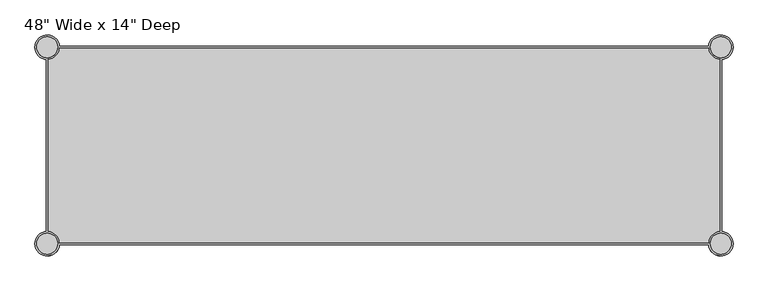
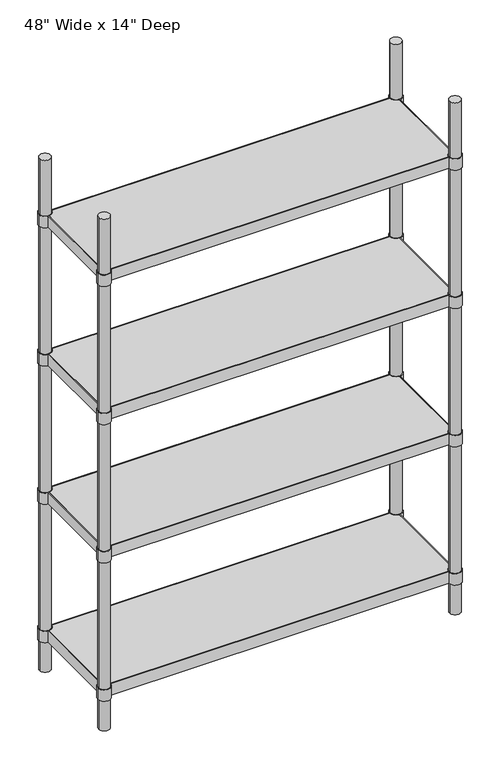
"""IFC4 building model written with IfcOpenShell, lengths in millimetres: proxy geometry."""

from ifc_helpers import new_model, si_unit, point, frame, frame_2d, origin, origin_with_axes, place, context, project, spatial, polyline, circle_curve, trimmed, segment, composite_curve, outline, extrude, source, transform, mapped, element, save


def proxy_9966d709(model_context):
    return source(origin(), model_context, "Body", "SweptSolid", [
        extrude(outline(composite_curve([segment(polyline([(-587.4317689, 176.2125), (587.4317689, 176.2125)]), True, "CONTINUOUS"), segment(trimmed(circle_curve(frame_2d((609.6, 177.8)), 22.225), [point((587.4317689, 176.2125))], [point((608.0125, 155.6317689))], True, "CARTESIAN"), True, "CONTINUOUS"), segment(polyline([(608.0125, 155.6317689), (608.0125, -155.6317689)]), True, "CONTINUOUS"), segment(trimmed(circle_curve(frame_2d((609.6, -177.8)), 22.225), [point((608.0125, -155.6317689))], [point((587.4317689, -176.2125))], True, "CARTESIAN"), True, "CONTINUOUS"), segment(polyline([(587.4317689, -176.2125), (-587.4317689, -176.2125)]), True, "CONTINUOUS"), segment(trimmed(circle_curve(frame_2d((-609.6, -177.8)), 22.225), [point((-587.4317689, -176.2125))], [point((-608.0125, -155.6317689))], True, "CARTESIAN"), True, "CONTINUOUS"), segment(polyline([(-608.0125, -155.6317689), (-608.0125, 155.6317689)]), True, "CONTINUOUS"), segment(trimmed(circle_curve(frame_2d((-609.6, 177.8)), 22.225), [point((-608.0125, 155.6317689))], [point((-587.4317689, 176.2125))], True, "CARTESIAN"), True, "CONTINUOUS")], self_intersect=False)), frame((0.0, 0.0, 1663.7), z_axis=(0.0, 0.0, 1.0), x_axis=(1.0, 0.0, 0.0)), (0.0, 0.0, 1.0), 12.7),
        extrude(outline(composite_curve([segment(polyline([(-587.4317689, 176.2125), (587.4317689, 176.2125)]), True, "CONTINUOUS"), segment(trimmed(circle_curve(frame_2d((609.6, 177.8)), 22.225), [point((587.4317689, 176.2125))], [point((608.0125, 155.6317689))], True, "CARTESIAN"), True, "CONTINUOUS"), segment(polyline([(608.0125, 155.6317689), (608.0125, -155.6317689)]), True, "CONTINUOUS"), segment(trimmed(circle_curve(frame_2d((609.6, -177.8)), 22.225), [point((608.0125, -155.6317689))], [point((587.4317689, -176.2125))], True, "CARTESIAN"), True, "CONTINUOUS"), segment(polyline([(587.4317689, -176.2125), (-587.4317689, -176.2125)]), True, "CONTINUOUS"), segment(trimmed(circle_curve(frame_2d((-609.6, -177.8)), 22.225), [point((-587.4317689, -176.2125))], [point((-608.0125, -155.6317689))], True, "CARTESIAN"), True, "CONTINUOUS"), segment(polyline([(-608.0125, -155.6317689), (-608.0125, 155.6317689)]), True, "CONTINUOUS"), segment(trimmed(circle_curve(frame_2d((-609.6, 177.8)), 22.225), [point((-608.0125, 155.6317689))], [point((-587.4317689, 176.2125))], True, "CARTESIAN"), True, "CONTINUOUS")], self_intersect=False)), frame((0.0, 0.0, 1155.7), z_axis=(0.0, 0.0, 1.0), x_axis=(1.0, 0.0, 0.0)), (0.0, 0.0, 1.0), 12.7),
        extrude(outline(composite_curve([segment(polyline([(-587.4317689, 176.2125), (587.4317689, 176.2125)]), True, "CONTINUOUS"), segment(trimmed(circle_curve(frame_2d((609.6, 177.8)), 22.225), [point((587.4317689, 176.2125))], [point((608.0125, 155.6317689))], True, "CARTESIAN"), True, "CONTINUOUS"), segment(polyline([(608.0125, 155.6317689), (608.0125, -155.6317689)]), True, "CONTINUOUS"), segment(trimmed(circle_curve(frame_2d((609.6, -177.8)), 22.225), [point((608.0125, -155.6317689))], [point((587.4317689, -176.2125))], True, "CARTESIAN"), True, "CONTINUOUS"), segment(polyline([(587.4317689, -176.2125), (-587.4317689, -176.2125)]), True, "CONTINUOUS"), segment(trimmed(circle_curve(frame_2d((-609.6, -177.8)), 22.225), [point((-587.4317689, -176.2125))], [point((-608.0125, -155.6317689))], True, "CARTESIAN"), True, "CONTINUOUS"), segment(polyline([(-608.0125, -155.6317689), (-608.0125, 155.6317689)]), True, "CONTINUOUS"), segment(trimmed(circle_curve(frame_2d((-609.6, 177.8)), 22.225), [point((-608.0125, 155.6317689))], [point((-587.4317689, 176.2125))], True, "CARTESIAN"), True, "CONTINUOUS")], self_intersect=False)), frame((0.0, 0.0, 647.7), z_axis=(0.0, 0.0, 1.0), x_axis=(1.0, 0.0, 0.0)), (0.0, 0.0, 1.0), 12.7),
        extrude(outline(composite_curve([segment(polyline([(-587.4317689, 176.2125), (587.4317689, 176.2125)]), True, "CONTINUOUS"), segment(trimmed(circle_curve(frame_2d((609.6, 177.8)), 22.225), [point((587.4317689, 176.2125))], [point((608.0125, 155.6317689))], True, "CARTESIAN"), True, "CONTINUOUS"), segment(polyline([(608.0125, 155.6317689), (608.0125, -155.6317689)]), True, "CONTINUOUS"), segment(trimmed(circle_curve(frame_2d((609.6, -177.8)), 22.225), [point((608.0125, -155.6317689))], [point((587.4317689, -176.2125))], True, "CARTESIAN"), True, "CONTINUOUS"), segment(polyline([(587.4317689, -176.2125), (-587.4317689, -176.2125)]), True, "CONTINUOUS"), segment(trimmed(circle_curve(frame_2d((-609.6, -177.8)), 22.225), [point((-587.4317689, -176.2125))], [point((-608.0125, -155.6317689))], True, "CARTESIAN"), True, "CONTINUOUS"), segment(polyline([(-608.0125, -155.6317689), (-608.0125, 155.6317689)]), True, "CONTINUOUS"), segment(trimmed(circle_curve(frame_2d((-609.6, 177.8)), 22.225), [point((-608.0125, 155.6317689))], [point((-587.4317689, 176.2125))], True, "CARTESIAN"), True, "CONTINUOUS")], self_intersect=False)), frame((0.0, 0.0, 139.7), z_axis=(0.0, 0.0, 1.0), x_axis=(1.0, 0.0, 0.0)), (0.0, 0.0, 1.0), 12.7),
        extrude(outline(composite_curve([segment(trimmed(circle_curve(frame_2d((-609.6, 177.8)), 22.225), [point((-611.1875, 155.6317689))], [point((-631.825, 177.8))], False, "CARTESIAN"), True, "CONTINUOUS"), segment(trimmed(circle_curve(frame_2d((-609.6, 177.8)), 22.225), [point((-631.825, 177.8))], [point((-587.4317689, 179.3875))], False, "CARTESIAN"), True, "CONTINUOUS"), segment(polyline([(-587.4317689, 179.3875), (587.4317689, 179.3875)]), True, "CONTINUOUS"), segment(trimmed(circle_curve(frame_2d((609.6, 177.8)), 22.225), [point((587.4317689, 179.3875))], [point((631.825, 177.8))], False, "CARTESIAN"), True, "CONTINUOUS"), segment(trimmed(circle_curve(frame_2d((609.6, 177.8)), 22.225), [point((631.825, 177.8))], [point((611.1875, 155.6317689))], False, "CARTESIAN"), True, "CONTINUOUS"), segment(polyline([(611.1875, 155.6317689), (611.1875, -155.6317689)]), True, "CONTINUOUS"), segment(trimmed(circle_curve(frame_2d((609.6, -177.8)), 22.225), [point((611.1875, -155.6317689))], [point((631.825, -177.8))], False, "CARTESIAN"), True, "CONTINUOUS"), segment(trimmed(circle_curve(frame_2d((609.6, -177.8)), 22.225), [point((631.825, -177.8))], [point((587.4317689, -179.3875))], False, "CARTESIAN"), True, "CONTINUOUS"), segment(polyline([(587.4317689, -179.3875), (-587.4317689, -179.3875)]), True, "CONTINUOUS"), segment(trimmed(circle_curve(frame_2d((-609.6, -177.8)), 22.225), [point((-587.4317689, -179.3875))], [point((-631.825, -177.8))], False, "CARTESIAN"), True, "CONTINUOUS"), segment(trimmed(circle_curve(frame_2d((-609.6, -177.8)), 22.225), [point((-631.825, -177.8))], [point((-611.1875, -155.6317689))], False, "CARTESIAN"), True, "CONTINUOUS"), segment(polyline([(-611.1875, -155.6317689), (-611.1875, 155.6317689)]), True, "CONTINUOUS")], self_intersect=False), holes=[composite_curve([segment(trimmed(circle_curve(frame_2d((-609.6, 177.8)), 19.05), [point((-590.55, 177.8))], [point((-628.65, 177.8))], True, "CARTESIAN"), True, "CONTINUOUS"), segment(trimmed(circle_curve(frame_2d((-609.6, 177.8)), 19.05), [point((-628.65, 177.8))], [point((-590.55, 177.8))], True, "CARTESIAN"), True, "CONTINUOUS")], self_intersect=False), composite_curve([segment(polyline([(587.4317689, 176.2125), (-587.4317689, 176.2125)]), True, "CONTINUOUS"), segment(trimmed(circle_curve(frame_2d((-609.6, 177.8)), 22.225), [point((-587.4317689, 176.2125))], [point((-608.0125, 155.6317689))], False, "CARTESIAN"), True, "CONTINUOUS"), segment(polyline([(-608.0125, 155.6317689), (-608.0125, -155.6317689)]), True, "CONTINUOUS"), segment(trimmed(circle_curve(frame_2d((-609.6, -177.8)), 22.225), [point((-608.0125, -155.6317689))], [point((-587.4317689, -176.2125))], False, "CARTESIAN"), True, "CONTINUOUS"), segment(polyline([(-587.4317689, -176.2125), (587.4317689, -176.2125)]), True, "CONTINUOUS"), segment(trimmed(circle_curve(frame_2d((609.6, -177.8)), 22.225), [point((587.4317689, -176.2125))], [point((608.0125, -155.6317689))], False, "CARTESIAN"), True, "CONTINUOUS"), segment(polyline([(608.0125, -155.6317689), (608.0125, 155.6317689)]), True, "CONTINUOUS"), segment(trimmed(circle_curve(frame_2d((609.6, 177.8)), 22.225), [point((608.0125, 155.6317689))], [point((587.4317689, 176.2125))], False, "CARTESIAN"), True, "CONTINUOUS")], self_intersect=False), composite_curve([segment(trimmed(circle_curve(frame_2d((609.6, 177.8)), 19.05), [point((628.65, 177.8))], [point((590.55, 177.8))], True, "CARTESIAN"), True, "CONTINUOUS"), segment(trimmed(circle_curve(frame_2d((609.6, 177.8)), 19.05), [point((590.55, 177.8))], [point((628.65, 177.8))], True, "CARTESIAN"), True, "CONTINUOUS")], self_intersect=False), composite_curve([segment(trimmed(circle_curve(frame_2d((-609.6, -177.8)), 19.05), [point((-590.55, -177.8))], [point((-628.65, -177.8))], True, "CARTESIAN"), True, "CONTINUOUS"), segment(trimmed(circle_curve(frame_2d((-609.6, -177.8)), 19.05), [point((-628.65, -177.8))], [point((-590.55, -177.8))], True, "CARTESIAN"), True, "CONTINUOUS")], self_intersect=False), composite_curve([segment(trimmed(circle_curve(frame_2d((609.6, -177.8)), 19.05), [point((628.65, -177.8))], [point((590.55, -177.8))], True, "CARTESIAN"), True, "CONTINUOUS"), segment(trimmed(circle_curve(frame_2d((609.6, -177.8)), 19.05), [point((590.55, -177.8))], [point((628.65, -177.8))], True, "CARTESIAN"), True, "CONTINUOUS")], self_intersect=False)]), frame((0.0, 0.0, 1635.125), z_axis=(0.0, 0.0, 1.0), x_axis=(1.0, 0.0, 0.0)), (0.0, 0.0, 1.0), 41.275),
        extrude(outline(composite_curve([segment(trimmed(circle_curve(frame_2d((-609.6, 177.8)), 22.225), [point((-611.1875, 155.6317689))], [point((-631.825, 177.8))], False, "CARTESIAN"), True, "CONTINUOUS"), segment(trimmed(circle_curve(frame_2d((-609.6, 177.8)), 22.225), [point((-631.825, 177.8))], [point((-587.4317689, 179.3875))], False, "CARTESIAN"), True, "CONTINUOUS"), segment(polyline([(-587.4317689, 179.3875), (587.4317689, 179.3875)]), True, "CONTINUOUS"), segment(trimmed(circle_curve(frame_2d((609.6, 177.8)), 22.225), [point((587.4317689, 179.3875))], [point((631.825, 177.8))], False, "CARTESIAN"), True, "CONTINUOUS"), segment(trimmed(circle_curve(frame_2d((609.6, 177.8)), 22.225), [point((631.825, 177.8))], [point((611.1875, 155.6317689))], False, "CARTESIAN"), True, "CONTINUOUS"), segment(polyline([(611.1875, 155.6317689), (611.1875, -155.6317689)]), True, "CONTINUOUS"), segment(trimmed(circle_curve(frame_2d((609.6, -177.8)), 22.225), [point((611.1875, -155.6317689))], [point((631.825, -177.8))], False, "CARTESIAN"), True, "CONTINUOUS"), segment(trimmed(circle_curve(frame_2d((609.6, -177.8)), 22.225), [point((631.825, -177.8))], [point((587.4317689, -179.3875))], False, "CARTESIAN"), True, "CONTINUOUS"), segment(polyline([(587.4317689, -179.3875), (-587.4317689, -179.3875)]), True, "CONTINUOUS"), segment(trimmed(circle_curve(frame_2d((-609.6, -177.8)), 22.225), [point((-587.4317689, -179.3875))], [point((-631.825, -177.8))], False, "CARTESIAN"), True, "CONTINUOUS"), segment(trimmed(circle_curve(frame_2d((-609.6, -177.8)), 22.225), [point((-631.825, -177.8))], [point((-611.1875, -155.6317689))], False, "CARTESIAN"), True, "CONTINUOUS"), segment(polyline([(-611.1875, -155.6317689), (-611.1875, 155.6317689)]), True, "CONTINUOUS")], self_intersect=False), holes=[composite_curve([segment(trimmed(circle_curve(frame_2d((-609.6, 177.8)), 19.05), [point((-590.55, 177.8))], [point((-628.65, 177.8))], True, "CARTESIAN"), True, "CONTINUOUS"), segment(trimmed(circle_curve(frame_2d((-609.6, 177.8)), 19.05), [point((-628.65, 177.8))], [point((-590.55, 177.8))], True, "CARTESIAN"), True, "CONTINUOUS")], self_intersect=False), composite_curve([segment(polyline([(587.4317689, 176.2125), (-587.4317689, 176.2125)]), True, "CONTINUOUS"), segment(trimmed(circle_curve(frame_2d((-609.6, 177.8)), 22.225), [point((-587.4317689, 176.2125))], [point((-608.0125, 155.6317689))], False, "CARTESIAN"), True, "CONTINUOUS"), segment(polyline([(-608.0125, 155.6317689), (-608.0125, -155.6317689)]), True, "CONTINUOUS"), segment(trimmed(circle_curve(frame_2d((-609.6, -177.8)), 22.225), [point((-608.0125, -155.6317689))], [point((-587.4317689, -176.2125))], False, "CARTESIAN"), True, "CONTINUOUS"), segment(polyline([(-587.4317689, -176.2125), (587.4317689, -176.2125)]), True, "CONTINUOUS"), segment(trimmed(circle_curve(frame_2d((609.6, -177.8)), 22.225), [point((587.4317689, -176.2125))], [point((608.0125, -155.6317689))], False, "CARTESIAN"), True, "CONTINUOUS"), segment(polyline([(608.0125, -155.6317689), (608.0125, 155.6317689)]), True, "CONTINUOUS"), segment(trimmed(circle_curve(frame_2d((609.6, 177.8)), 22.225), [point((608.0125, 155.6317689))], [point((587.4317689, 176.2125))], False, "CARTESIAN"), True, "CONTINUOUS")], self_intersect=False), composite_curve([segment(trimmed(circle_curve(frame_2d((609.6, 177.8)), 19.05), [point((628.65, 177.8))], [point((590.55, 177.8))], True, "CARTESIAN"), True, "CONTINUOUS"), segment(trimmed(circle_curve(frame_2d((609.6, 177.8)), 19.05), [point((590.55, 177.8))], [point((628.65, 177.8))], True, "CARTESIAN"), True, "CONTINUOUS")], self_intersect=False), composite_curve([segment(trimmed(circle_curve(frame_2d((-609.6, -177.8)), 19.05), [point((-590.55, -177.8))], [point((-628.65, -177.8))], True, "CARTESIAN"), True, "CONTINUOUS"), segment(trimmed(circle_curve(frame_2d((-609.6, -177.8)), 19.05), [point((-628.65, -177.8))], [point((-590.55, -177.8))], True, "CARTESIAN"), True, "CONTINUOUS")], self_intersect=False), composite_curve([segment(trimmed(circle_curve(frame_2d((609.6, -177.8)), 19.05), [point((628.65, -177.8))], [point((590.55, -177.8))], True, "CARTESIAN"), True, "CONTINUOUS"), segment(trimmed(circle_curve(frame_2d((609.6, -177.8)), 19.05), [point((590.55, -177.8))], [point((628.65, -177.8))], True, "CARTESIAN"), True, "CONTINUOUS")], self_intersect=False)]), frame((0.0, 0.0, 1127.125), z_axis=(0.0, 0.0, 1.0), x_axis=(1.0, 0.0, 0.0)), (0.0, 0.0, 1.0), 41.275),
        extrude(outline(composite_curve([segment(trimmed(circle_curve(frame_2d((-609.6, 177.8)), 22.225), [point((-611.1875, 155.6317689))], [point((-631.825, 177.8))], False, "CARTESIAN"), True, "CONTINUOUS"), segment(trimmed(circle_curve(frame_2d((-609.6, 177.8)), 22.225), [point((-631.825, 177.8))], [point((-587.4317689, 179.3875))], False, "CARTESIAN"), True, "CONTINUOUS"), segment(polyline([(-587.4317689, 179.3875), (587.4317689, 179.3875)]), True, "CONTINUOUS"), segment(trimmed(circle_curve(frame_2d((609.6, 177.8)), 22.225), [point((587.4317689, 179.3875))], [point((631.825, 177.8))], False, "CARTESIAN"), True, "CONTINUOUS"), segment(trimmed(circle_curve(frame_2d((609.6, 177.8)), 22.225), [point((631.825, 177.8))], [point((611.1875, 155.6317689))], False, "CARTESIAN"), True, "CONTINUOUS"), segment(polyline([(611.1875, 155.6317689), (611.1875, -155.6317689)]), True, "CONTINUOUS"), segment(trimmed(circle_curve(frame_2d((609.6, -177.8)), 22.225), [point((611.1875, -155.6317689))], [point((631.825, -177.8))], False, "CARTESIAN"), True, "CONTINUOUS"), segment(trimmed(circle_curve(frame_2d((609.6, -177.8)), 22.225), [point((631.825, -177.8))], [point((587.4317689, -179.3875))], False, "CARTESIAN"), True, "CONTINUOUS"), segment(polyline([(587.4317689, -179.3875), (-587.4317689, -179.3875)]), True, "CONTINUOUS"), segment(trimmed(circle_curve(frame_2d((-609.6, -177.8)), 22.225), [point((-587.4317689, -179.3875))], [point((-631.825, -177.8))], False, "CARTESIAN"), True, "CONTINUOUS"), segment(trimmed(circle_curve(frame_2d((-609.6, -177.8)), 22.225), [point((-631.825, -177.8))], [point((-611.1875, -155.6317689))], False, "CARTESIAN"), True, "CONTINUOUS"), segment(polyline([(-611.1875, -155.6317689), (-611.1875, 155.6317689)]), True, "CONTINUOUS")], self_intersect=False), holes=[composite_curve([segment(trimmed(circle_curve(frame_2d((-609.6, 177.8)), 19.05), [point((-590.55, 177.8))], [point((-628.65, 177.8))], True, "CARTESIAN"), True, "CONTINUOUS"), segment(trimmed(circle_curve(frame_2d((-609.6, 177.8)), 19.05), [point((-628.65, 177.8))], [point((-590.55, 177.8))], True, "CARTESIAN"), True, "CONTINUOUS")], self_intersect=False), composite_curve([segment(polyline([(587.4317689, 176.2125), (-587.4317689, 176.2125)]), True, "CONTINUOUS"), segment(trimmed(circle_curve(frame_2d((-609.6, 177.8)), 22.225), [point((-587.4317689, 176.2125))], [point((-608.0125, 155.6317689))], False, "CARTESIAN"), True, "CONTINUOUS"), segment(polyline([(-608.0125, 155.6317689), (-608.0125, -155.6317689)]), True, "CONTINUOUS"), segment(trimmed(circle_curve(frame_2d((-609.6, -177.8)), 22.225), [point((-608.0125, -155.6317689))], [point((-587.4317689, -176.2125))], False, "CARTESIAN"), True, "CONTINUOUS"), segment(polyline([(-587.4317689, -176.2125), (587.4317689, -176.2125)]), True, "CONTINUOUS"), segment(trimmed(circle_curve(frame_2d((609.6, -177.8)), 22.225), [point((587.4317689, -176.2125))], [point((608.0125, -155.6317689))], False, "CARTESIAN"), True, "CONTINUOUS"), segment(polyline([(608.0125, -155.6317689), (608.0125, 155.6317689)]), True, "CONTINUOUS"), segment(trimmed(circle_curve(frame_2d((609.6, 177.8)), 22.225), [point((608.0125, 155.6317689))], [point((587.4317689, 176.2125))], False, "CARTESIAN"), True, "CONTINUOUS")], self_intersect=False), composite_curve([segment(trimmed(circle_curve(frame_2d((609.6, 177.8)), 19.05), [point((628.65, 177.8))], [point((590.55, 177.8))], True, "CARTESIAN"), True, "CONTINUOUS"), segment(trimmed(circle_curve(frame_2d((609.6, 177.8)), 19.05), [point((590.55, 177.8))], [point((628.65, 177.8))], True, "CARTESIAN"), True, "CONTINUOUS")], self_intersect=False), composite_curve([segment(trimmed(circle_curve(frame_2d((-609.6, -177.8)), 19.05), [point((-590.55, -177.8))], [point((-628.65, -177.8))], True, "CARTESIAN"), True, "CONTINUOUS"), segment(trimmed(circle_curve(frame_2d((-609.6, -177.8)), 19.05), [point((-628.65, -177.8))], [point((-590.55, -177.8))], True, "CARTESIAN"), True, "CONTINUOUS")], self_intersect=False), composite_curve([segment(trimmed(circle_curve(frame_2d((609.6, -177.8)), 19.05), [point((628.65, -177.8))], [point((590.55, -177.8))], True, "CARTESIAN"), True, "CONTINUOUS"), segment(trimmed(circle_curve(frame_2d((609.6, -177.8)), 19.05), [point((590.55, -177.8))], [point((628.65, -177.8))], True, "CARTESIAN"), True, "CONTINUOUS")], self_intersect=False)]), frame((0.0, 0.0, 619.125), z_axis=(0.0, 0.0, 1.0), x_axis=(1.0, 0.0, 0.0)), (0.0, 0.0, 1.0), 41.275),
        extrude(outline(composite_curve([segment(trimmed(circle_curve(frame_2d((-609.6, 177.8)), 22.225), [point((-611.1875, 155.6317689))], [point((-631.825, 177.8))], False, "CARTESIAN"), True, "CONTINUOUS"), segment(trimmed(circle_curve(frame_2d((-609.6, 177.8)), 22.225), [point((-631.825, 177.8))], [point((-587.4317689, 179.3875))], False, "CARTESIAN"), True, "CONTINUOUS"), segment(polyline([(-587.4317689, 179.3875), (587.4317689, 179.3875)]), True, "CONTINUOUS"), segment(trimmed(circle_curve(frame_2d((609.6, 177.8)), 22.225), [point((587.4317689, 179.3875))], [point((631.825, 177.8))], False, "CARTESIAN"), True, "CONTINUOUS"), segment(trimmed(circle_curve(frame_2d((609.6, 177.8)), 22.225), [point((631.825, 177.8))], [point((611.1875, 155.6317689))], False, "CARTESIAN"), True, "CONTINUOUS"), segment(polyline([(611.1875, 155.6317689), (611.1875, -155.6317689)]), True, "CONTINUOUS"), segment(trimmed(circle_curve(frame_2d((609.6, -177.8)), 22.225), [point((611.1875, -155.6317689))], [point((631.825, -177.8))], False, "CARTESIAN"), True, "CONTINUOUS"), segment(trimmed(circle_curve(frame_2d((609.6, -177.8)), 22.225), [point((631.825, -177.8))], [point((587.4317689, -179.3875))], False, "CARTESIAN"), True, "CONTINUOUS"), segment(polyline([(587.4317689, -179.3875), (-587.4317689, -179.3875)]), True, "CONTINUOUS"), segment(trimmed(circle_curve(frame_2d((-609.6, -177.8)), 22.225), [point((-587.4317689, -179.3875))], [point((-631.825, -177.8))], False, "CARTESIAN"), True, "CONTINUOUS"), segment(trimmed(circle_curve(frame_2d((-609.6, -177.8)), 22.225), [point((-631.825, -177.8))], [point((-611.1875, -155.6317689))], False, "CARTESIAN"), True, "CONTINUOUS"), segment(polyline([(-611.1875, -155.6317689), (-611.1875, 155.6317689)]), True, "CONTINUOUS")], self_intersect=False), holes=[composite_curve([segment(trimmed(circle_curve(frame_2d((-609.6, 177.8)), 19.05), [point((-590.55, 177.8))], [point((-628.65, 177.8))], True, "CARTESIAN"), True, "CONTINUOUS"), segment(trimmed(circle_curve(frame_2d((-609.6, 177.8)), 19.05), [point((-628.65, 177.8))], [point((-590.55, 177.8))], True, "CARTESIAN"), True, "CONTINUOUS")], self_intersect=False), composite_curve([segment(polyline([(587.4317689, 176.2125), (-587.4317689, 176.2125)]), True, "CONTINUOUS"), segment(trimmed(circle_curve(frame_2d((-609.6, 177.8)), 22.225), [point((-587.4317689, 176.2125))], [point((-608.0125, 155.6317689))], False, "CARTESIAN"), True, "CONTINUOUS"), segment(polyline([(-608.0125, 155.6317689), (-608.0125, -155.6317689)]), True, "CONTINUOUS"), segment(trimmed(circle_curve(frame_2d((-609.6, -177.8)), 22.225), [point((-608.0125, -155.6317689))], [point((-587.4317689, -176.2125))], False, "CARTESIAN"), True, "CONTINUOUS"), segment(polyline([(-587.4317689, -176.2125), (587.4317689, -176.2125)]), True, "CONTINUOUS"), segment(trimmed(circle_curve(frame_2d((609.6, -177.8)), 22.225), [point((587.4317689, -176.2125))], [point((608.0125, -155.6317689))], False, "CARTESIAN"), True, "CONTINUOUS"), segment(polyline([(608.0125, -155.6317689), (608.0125, 155.6317689)]), True, "CONTINUOUS"), segment(trimmed(circle_curve(frame_2d((609.6, 177.8)), 22.225), [point((608.0125, 155.6317689))], [point((587.4317689, 176.2125))], False, "CARTESIAN"), True, "CONTINUOUS")], self_intersect=False), composite_curve([segment(trimmed(circle_curve(frame_2d((609.6, 177.8)), 19.05), [point((628.65, 177.8))], [point((590.55, 177.8))], True, "CARTESIAN"), True, "CONTINUOUS"), segment(trimmed(circle_curve(frame_2d((609.6, 177.8)), 19.05), [point((590.55, 177.8))], [point((628.65, 177.8))], True, "CARTESIAN"), True, "CONTINUOUS")], self_intersect=False), composite_curve([segment(trimmed(circle_curve(frame_2d((-609.6, -177.8)), 19.05), [point((-590.55, -177.8))], [point((-628.65, -177.8))], True, "CARTESIAN"), True, "CONTINUOUS"), segment(trimmed(circle_curve(frame_2d((-609.6, -177.8)), 19.05), [point((-628.65, -177.8))], [point((-590.55, -177.8))], True, "CARTESIAN"), True, "CONTINUOUS")], self_intersect=False), composite_curve([segment(trimmed(circle_curve(frame_2d((609.6, -177.8)), 19.05), [point((628.65, -177.8))], [point((590.55, -177.8))], True, "CARTESIAN"), True, "CONTINUOUS"), segment(trimmed(circle_curve(frame_2d((609.6, -177.8)), 19.05), [point((590.55, -177.8))], [point((628.65, -177.8))], True, "CARTESIAN"), True, "CONTINUOUS")], self_intersect=False)]), frame((0.0, 0.0, 111.125), z_axis=(0.0, 0.0, 1.0), x_axis=(1.0, 0.0, 0.0)), (0.0, 0.0, 1.0), 41.275),
        extrude(outline(composite_curve([segment(trimmed(circle_curve(frame_2d((609.6, -177.8)), 19.05), [point((628.65, -177.8))], [point((590.55, -177.8))], False, "CARTESIAN"), True, "CONTINUOUS"), segment(trimmed(circle_curve(frame_2d((609.6, -177.8)), 19.05), [point((590.55, -177.8))], [point((628.65, -177.8))], False, "CARTESIAN"), True, "CONTINUOUS")], self_intersect=False)), origin_with_axes(), (0.0, 0.0, 1.0), 1879.6),
        extrude(outline(composite_curve([segment(trimmed(circle_curve(frame_2d((-609.6, -177.8)), 19.05), [point((-628.65, -177.8))], [point((-590.55, -177.8))], False, "CARTESIAN"), True, "CONTINUOUS"), segment(trimmed(circle_curve(frame_2d((-609.6, -177.8)), 19.05), [point((-590.55, -177.8))], [point((-628.65, -177.8))], False, "CARTESIAN"), True, "CONTINUOUS")], self_intersect=False)), origin_with_axes(), (0.0, 0.0, 1.0), 1879.6),
        extrude(outline(composite_curve([segment(trimmed(circle_curve(frame_2d((609.6, 177.8)), 19.05), [point((628.65, 177.8))], [point((590.55, 177.8))], False, "CARTESIAN"), True, "CONTINUOUS"), segment(trimmed(circle_curve(frame_2d((609.6, 177.8)), 19.05), [point((590.55, 177.8))], [point((628.65, 177.8))], False, "CARTESIAN"), True, "CONTINUOUS")], self_intersect=False)), origin_with_axes(), (0.0, 0.0, 1.0), 1879.6),
        extrude(outline(composite_curve([segment(trimmed(circle_curve(frame_2d((-609.6, 177.8)), 19.05), [point((-628.65, 177.8))], [point((-590.55, 177.8))], False, "CARTESIAN"), True, "CONTINUOUS"), segment(trimmed(circle_curve(frame_2d((-609.6, 177.8)), 19.05), [point((-590.55, 177.8))], [point((-628.65, 177.8))], False, "CARTESIAN"), True, "CONTINUOUS")], self_intersect=False)), origin_with_axes(), (0.0, 0.0, 1.0), 1879.6),
    ])


if __name__ == "__main__":
    model = new_model("IFC4")
    model_context = context("Model", 3, world=origin())
    ifc_project = project(units=[si_unit("LENGTHUNIT", "METRE", prefix="MILLI")], contexts=[model_context])
    site = spatial("IfcSite", under=ifc_project)
    building = spatial("IfcBuilding", under=site)
    placement = place(None, origin())
    proxy_shape = proxy_9966d709(model_context)
    element("IfcBuildingElementProxy", 1, Name="prateleira2 : 48\" Wide x 14\" Deep", ObjectType="prateleira2 : 48\" Wide x 14\" Deep", at=placement, inside=building, context=model_context, shape_type="MappedRepresentation", body=[
        mapped(proxy_shape, transform((0.0, 0.0, 0.0), x_axis=(1.0, 0.0, 0.0), y_axis=(0.0, 1.0, 0.0), z_axis=(0.0, 0.0, 1.0))),
    ])
    save(model, "model.ifc")
